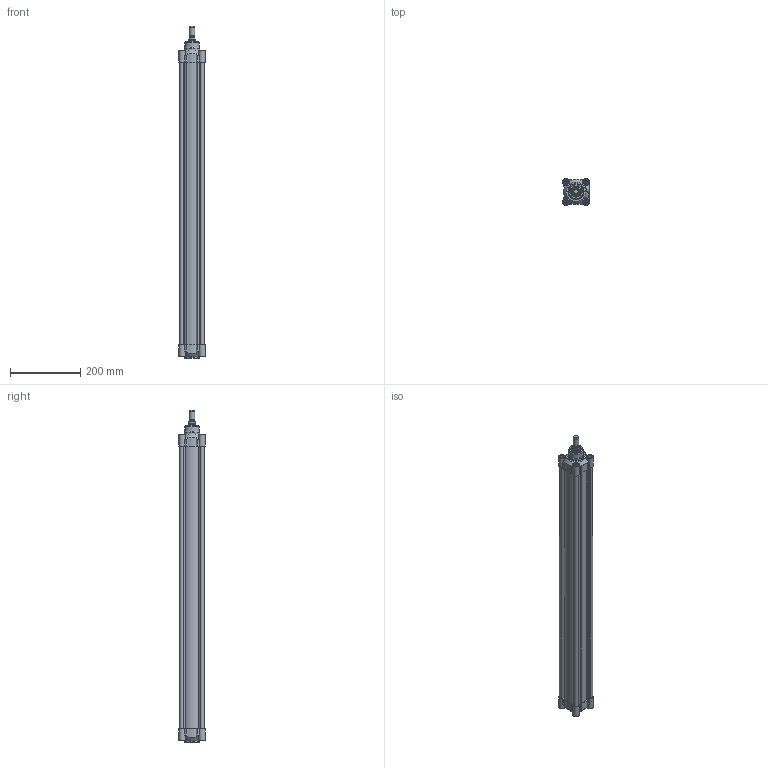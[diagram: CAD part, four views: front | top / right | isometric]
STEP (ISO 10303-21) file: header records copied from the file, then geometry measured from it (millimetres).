
FILE_DESCRIPTION(/* description */ ('CILINDRO D.E. MAGNETICO AMMORTIZZATO ISO 15552'),/* implementation_level */ '2;1');
FILE_NAME(/* name */ 'T:\Archivio Inventor\- 00 NUOVI STP PER SITO CON STELO CHE SI MUOVE\SERIE H - U\SERIE HDM\HDM063 - TUBO NUOVO\HDM063.750.GS.M.stp',/* time_stamp */ '2018-07-30T14:42:27+02:00',/* author */ ('carlo.corazza'),/* organization */ (''),/* preprocessor_version */ 'ST-DEVELOPER v16.5',/* originating_system */ 'Autodesk Inventor 2017',/* authorisation */ '');
FILE_SCHEMA (('AUTOMOTIVE_DESIGN { 1 0 10303 214 3 1 1 }'));
Length unit declared in the file: millimetre
Products named in the file (5): HDM063.750.GS.M; TP; TA; STELO-750; CORPO-750
Assembly tree (4 placements, depth 2):
  HDM063.750.GS.M
    TP
    TA
    STELO-750
    CORPO-750
Bounding box: 75 x 75 x 944 mm (x, y, z)
Volume: 1275995.7 mm3; surface area: 700506 mm2
Topology: 4 solids, 27 shells, 1241 faces, 2936 edges, 1818 vertices
Faces by surface type: plane 368, cylinder 297, bspline 288, torus 108, cone 106, sphere 74
Full cylindrical faces by diameter (mm): 3 x2, 3.4 x2, 4.8 x2, 5.25 x2, 6.647 x8, 8 x8, 8.3 x12, 9.8 x4, 9.9 x2, 10 x6, 12 x3, 13 x8, 13.3 x8, 13.5 x1, 14.95 x2, 16 x1, 19.5 x1, 20 x1, 20.8 x1, 20.847 x1, 24 x1, 26 x2, 30 x3, 42 x1, 45 x2, 63 x1
Entity records: 40768 total; most frequent: CARTESIAN_POINT 13071, ORIENTED_EDGE 5326, DIRECTION 5100, EDGE_CURVE 2663, AXIS2_PLACEMENT_3D 2037, VERTEX_POINT 1763, EDGE_LOOP 1576, STYLED_ITEM 1245
